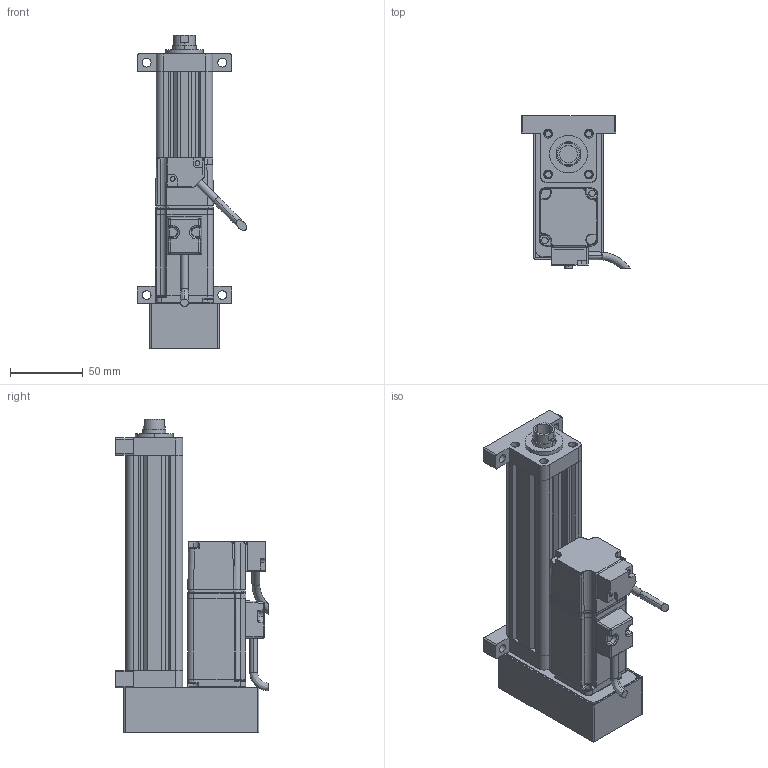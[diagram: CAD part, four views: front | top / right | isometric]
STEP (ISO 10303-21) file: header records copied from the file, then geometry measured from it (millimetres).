
FILE_DESCRIPTION (( 'STEP AP214' ), '1' );
FILE_NAME ('039-S100-D02-B-M2-C2-2.STEP', '2021-02-25T08:51:03', ( '' ), ( '' ), 'SwSTEP 2.0', 'SolidWorks 2018', '' );
FILE_SCHEMA (( 'AUTOMOTIVE_DESIGN' ));
Length unit declared in the file: millimetre
Products named in the file (8): CMC039-XT; CMC039-DT; CMC039-LJB; CMC039-GT; 039-S100-D02-B-M2-C2-2; CMC039-HDB; CMC039-QDB; ECMA-CX0401ES-40框號系列機種-100W低慣量系列
Assembly tree (7 placements, depth 2):
  039-S100-D02-B-M2-C2-2
    CMC039-GT
    CMC039-LJB
    CMC039-XT
    CMC039-DT
    ECMA-CX0401ES-40框號系列機種-100W低慣量系列
    CMC039-QDB
    CMC039-HDB
Bounding box: 75.34 x 104.89 x 216 mm (x, y, z)
Volume: 383984.4 mm3; surface area: 136247.2 mm2
Topology: 7 solids, 15 shells, 634 faces, 1654 edges, 1031 vertices
Faces by surface type: cylinder 260, plane 253, bspline 84, cone 37
Entity records: 25486 total; most frequent: CARTESIAN_POINT 10811, ORIENTED_EDGE 3242, DIRECTION 2571, EDGE_CURVE 1621, VERTEX_POINT 1031, AXIS2_PLACEMENT_3D 878, VECTOR 815, LINE 815
